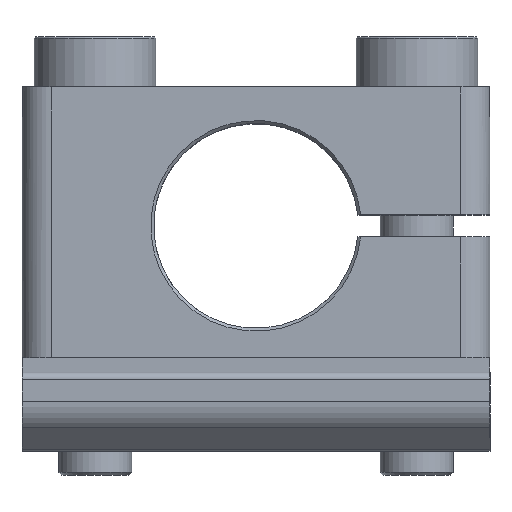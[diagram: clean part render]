
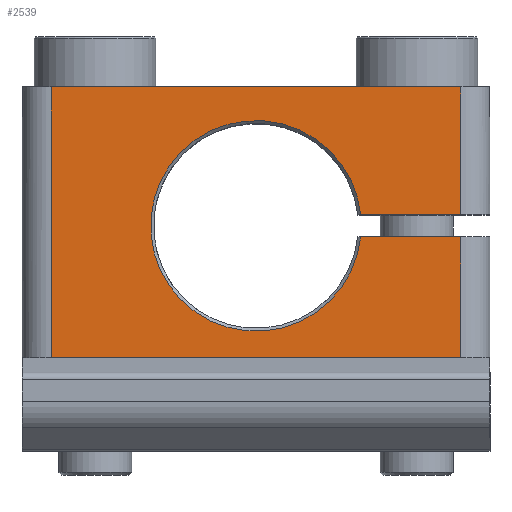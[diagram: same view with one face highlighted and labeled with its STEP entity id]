
A CAD part, top view. The second image highlights one B-rep face of the part: STEP entity #2539.
In plain terms, the highlighted planar face has unit normal (0, 0, 1).
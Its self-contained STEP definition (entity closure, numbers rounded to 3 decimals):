
#63 = ORIENTED_EDGE ( 'NONE', *, *, #1063, .T. ) ;
#164 = CARTESIAN_POINT ( 'NONE',  ( -10.488, -6.134, 14.007 ) ) ;
#280 = EDGE_CURVE ( 'NONE', #9322, #9069, #4960, .T. ) ;
#293 = VECTOR ( 'NONE', #8137, 1000. ) ;
#380 = ORIENTED_EDGE ( 'NONE', *, *, #280, .F. ) ;
#518 = FACE_OUTER_BOUND ( 'NONE', #1306, .T. ) ;
#770 = ORIENTED_EDGE ( 'NONE', *, *, #1148, .T. ) ;
#834 = CARTESIAN_POINT ( 'NONE',  ( 17.512, -6.134, 14.007 ) ) ;
#1063 = EDGE_CURVE ( 'NONE', #4236, #9069, #3296, .T. ) ;
#1082 = AXIS2_PLACEMENT_3D ( 'NONE', #7320, #6578, #8063 ) ;
#1125 = VECTOR ( 'NONE', #9112, 1000. ) ;
#1148 = EDGE_CURVE ( 'NONE', #9322, #7473, #8687, .T. ) ;
#1306 = EDGE_LOOP ( 'NONE', ( #1308, #63, #380, #770, #5449, #2367, #5829, #8410 ) ) ;
#1308 = ORIENTED_EDGE ( 'NONE', *, *, #4682, .T. ) ;
#1342 = CARTESIAN_POINT ( 'NONE',  ( 10.673, 3.616, 14.007 ) ) ;
#1464 = CARTESIAN_POINT ( 'NONE',  ( 10.673, 2.116, 14.007 ) ) ;
#1704 = CARTESIAN_POINT ( 'NONE',  ( 19.512, -6.134, 14.007 ) ) ;
#1960 = VERTEX_POINT ( 'NONE', #1342 ) ;
#2251 = LINE ( 'NONE', #5253, #293 ) ;
#2319 = CARTESIAN_POINT ( 'NONE',  ( -10.488, 0., 14.007 ) ) ;
#2367 = ORIENTED_EDGE ( 'NONE', *, *, #4352, .T. ) ;
#2539 = ADVANCED_FACE ( 'NONE', ( #518 ), #6130, .T. ) ;
#2622 = DIRECTION ( 'NONE',  ( -1., 0., 0. ) ) ;
#2688 = CARTESIAN_POINT ( 'NONE',  ( 17.512, 2.116, 14.007 ) ) ;
#2974 = VERTEX_POINT ( 'NONE', #8061 ) ;
#3055 = VECTOR ( 'NONE', #9263, 1000. ) ;
#3097 = CARTESIAN_POINT ( 'NONE',  ( 17.512, 12.366, 14.007 ) ) ;
#3296 = LINE ( 'NONE', #2319, #8927 ) ;
#3397 = DIRECTION ( 'NONE',  ( 0., -1., 0. ) ) ;
#3870 = CIRCLE ( 'NONE', #1082, 7.2 ) ;
#3896 = DIRECTION ( 'NONE',  ( 0., 0., 1. ) ) ;
#4006 = LINE ( 'NONE', #4838, #5497 ) ;
#4040 = CARTESIAN_POINT ( 'NONE',  ( 17.512, 0., 14.007 ) ) ;
#4112 = EDGE_CURVE ( 'NONE', #7473, #4272, #4006, .T. ) ;
#4236 = VERTEX_POINT ( 'NONE', #7951 ) ;
#4272 = VERTEX_POINT ( 'NONE', #1464 ) ;
#4352 = EDGE_CURVE ( 'NONE', #4272, #1960, #3870, .T. ) ;
#4682 = EDGE_CURVE ( 'NONE', #4914, #4236, #5486, .T. ) ;
#4724 = VECTOR ( 'NONE', #5863, 1000. ) ;
#4838 = CARTESIAN_POINT ( 'NONE',  ( 19.512, 2.116, 14.007 ) ) ;
#4914 = VERTEX_POINT ( 'NONE', #3097 ) ;
#4960 = LINE ( 'NONE', #1704, #8820 ) ;
#4972 = EDGE_CURVE ( 'NONE', #2974, #4914, #2251, .T. ) ;
#5253 = CARTESIAN_POINT ( 'NONE',  ( 17.512, 0., 14.007 ) ) ;
#5449 = ORIENTED_EDGE ( 'NONE', *, *, #4112, .T. ) ;
#5486 = LINE ( 'NONE', #5704, #3055 ) ;
#5497 = VECTOR ( 'NONE', #2622, 1000. ) ;
#5704 = CARTESIAN_POINT ( 'NONE',  ( 19.512, 12.366, 14.007 ) ) ;
#5829 = ORIENTED_EDGE ( 'NONE', *, *, #7597, .T. ) ;
#5863 = DIRECTION ( 'NONE',  ( 1., 0., 0. ) ) ;
#6130 = PLANE ( 'NONE',  #7518 ) ;
#6276 = DIRECTION ( 'NONE',  ( -1., 0., 0. ) ) ;
#6578 = DIRECTION ( 'NONE',  ( 0., 0., -1. ) ) ;
#6798 = CARTESIAN_POINT ( 'NONE',  ( 0., 0., 14.007 ) ) ;
#7231 = CARTESIAN_POINT ( 'NONE',  ( 10.471, 3.616, 14.007 ) ) ;
#7320 = CARTESIAN_POINT ( 'NONE',  ( 3.512, 2.866, 14.007 ) ) ;
#7473 = VERTEX_POINT ( 'NONE', #2688 ) ;
#7518 = AXIS2_PLACEMENT_3D ( 'NONE', #6798, #3896, #8278 ) ;
#7597 = EDGE_CURVE ( 'NONE', #1960, #2974, #8580, .T. ) ;
#7951 = CARTESIAN_POINT ( 'NONE',  ( -10.488, 12.366, 14.007 ) ) ;
#8061 = CARTESIAN_POINT ( 'NONE',  ( 17.512, 3.616, 14.007 ) ) ;
#8063 = DIRECTION ( 'NONE',  ( 1., 0., 0. ) ) ;
#8137 = DIRECTION ( 'NONE',  ( 0., 1., 0. ) ) ;
#8278 = DIRECTION ( 'NONE',  ( 1., 0., 0. ) ) ;
#8410 = ORIENTED_EDGE ( 'NONE', *, *, #4972, .T. ) ;
#8580 = LINE ( 'NONE', #7231, #4724 ) ;
#8687 = LINE ( 'NONE', #4040, #1125 ) ;
#8820 = VECTOR ( 'NONE', #6276, 1000. ) ;
#8927 = VECTOR ( 'NONE', #3397, 1000. ) ;
#9069 = VERTEX_POINT ( 'NONE', #164 ) ;
#9112 = DIRECTION ( 'NONE',  ( 0., 1., 0. ) ) ;
#9263 = DIRECTION ( 'NONE',  ( -1., 0., 0. ) ) ;
#9322 = VERTEX_POINT ( 'NONE', #834 ) ;
